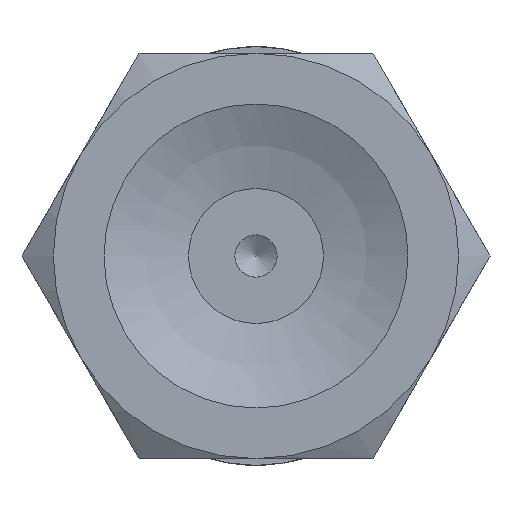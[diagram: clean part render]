
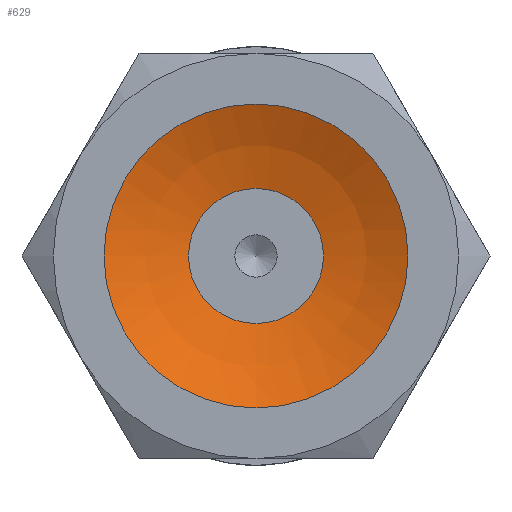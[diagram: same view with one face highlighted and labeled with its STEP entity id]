
A CAD part, front view. The second image highlights one B-rep face of the part: STEP entity #629.
In plain terms, the highlighted spherical face has radius 10.203 mm.
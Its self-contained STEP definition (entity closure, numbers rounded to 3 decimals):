
#629=ADVANCED_FACE('',(#971,#972),#973,.F.);
#971=FACE_OUTER_BOUND('',#1392,.T.);
#972=FACE_OUTER_BOUND('',#1393,.T.);
#973=SPHERICAL_SURFACE('',#1394,10.203);
#1392=EDGE_LOOP('',(#2469));
#1393=EDGE_LOOP('',(#2470));
#1394=AXIS2_PLACEMENT_3D('',#2471,#2472,#2473);
#2469=ORIENTED_EDGE('',*,*,#2970,.T.);
#2470=ORIENTED_EDGE('',*,*,#2983,.F.);
#2471=CARTESIAN_POINT('',(0.,-9.157,0.));
#2472=DIRECTION('',(0.0,-1.0,0.));
#2473=DIRECTION('',(1.0,0.0,0.0));
#2970=EDGE_CURVE('',#3367,#3367,#3368,.T.);
#2983=EDGE_CURVE('',#3393,#3393,#3394,.T.);
#3367=VERTEX_POINT('',#4407);
#3368=CIRCLE('',#4408,4.5);
#3393=VERTEX_POINT('',#4433);
#3394=CIRCLE('',#4434,2.);
#4407=CARTESIAN_POINT('',(0.0,0.,-4.5));
#4408=AXIS2_PLACEMENT_3D('',#5165,#5166,#5167);
#4433=CARTESIAN_POINT('',(0.0,0.848,-2.));
#4434=AXIS2_PLACEMENT_3D('',#5204,#5205,#5206);
#5165=CARTESIAN_POINT('',(0.0,0.,0.0));
#5166=DIRECTION('',(0.0,-1.0,0.));
#5167=DIRECTION('',(0.0,0.,-1.0));
#5204=CARTESIAN_POINT('',(0.0,0.848,0.0));
#5205=DIRECTION('',(0.0,-1.0,0.));
#5206=DIRECTION('',(0.0,0.,-1.0));
